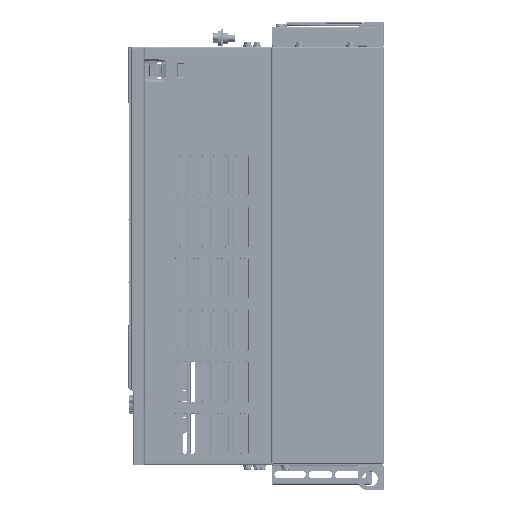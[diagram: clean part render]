
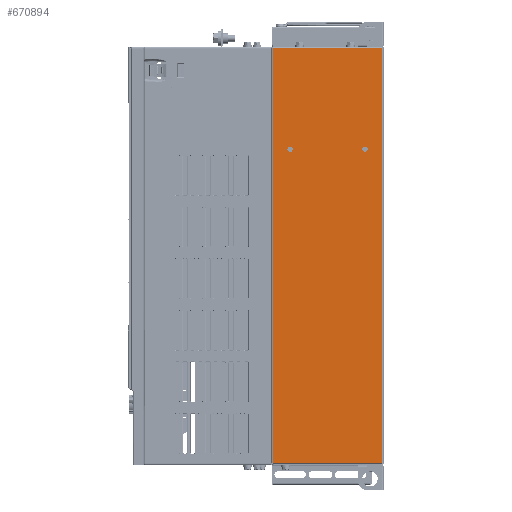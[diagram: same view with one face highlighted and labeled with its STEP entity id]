
A CAD part, left-side view. The second image highlights one B-rep face of the part: STEP entity #670894.
In plain terms, the highlighted planar face has unit normal (-1, 0, 0).
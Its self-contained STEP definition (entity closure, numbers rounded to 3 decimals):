
#662516=DIRECTION('',(0.,-1.,0.));
#662517=VECTOR('',#662516,128.6);
#662518=CARTESIAN_POINT('',(-165.,130.2,-488.8));
#662519=LINE('',#662518,#662517);
#662588=DIRECTION('',(0.,0.,1.));
#662589=VECTOR('',#662588,487.2);
#662590=CARTESIAN_POINT('',(-165.,1.6,-488.8));
#662591=LINE('',#662590,#662589);
#662595=CARTESIAN_POINT('',(-165.,21.9,-120.5));
#662596=DIRECTION('',(-1.,0.,0.));
#662597=DIRECTION('',(0.,0.,-1.));
#662598=AXIS2_PLACEMENT_3D('',#662595,#662596,#662597);
#662603=CARTESIAN_POINT('',(-165.,21.9,-120.5));
#662604=DIRECTION('',(-1.,0.,0.));
#662605=DIRECTION('',(0.,0.,1.));
#662606=AXIS2_PLACEMENT_3D('',#662603,#662604,#662605);
#662611=CARTESIAN_POINT('',(-165.,109.9,-120.5));
#662612=DIRECTION('',(-1.,0.,0.));
#662613=DIRECTION('',(0.,0.,-1.));
#662614=AXIS2_PLACEMENT_3D('',#662611,#662612,#662613);
#662619=CARTESIAN_POINT('',(-165.,109.9,-120.5));
#662620=DIRECTION('',(-1.,0.,0.));
#662621=DIRECTION('',(0.,0.,1.));
#662622=AXIS2_PLACEMENT_3D('',#662619,#662620,#662621);
#662627=DIRECTION('',(0.,0.,-1.));
#662628=VECTOR('',#662627,487.2);
#662629=CARTESIAN_POINT('',(-165.,130.2,-1.6));
#662630=LINE('',#662629,#662628);
#663756=DIRECTION('',(0.,1.,0.));
#663757=VECTOR('',#663756,128.6);
#663758=CARTESIAN_POINT('',(-165.,1.6,-1.6));
#663759=LINE('',#663758,#663757);
#667822=CARTESIAN_POINT('',(-165.,1.6,-1.6));
#667823=VERTEX_POINT('',#667822);
#667904=CARTESIAN_POINT('',(-165.,1.6,-488.8));
#667905=VERTEX_POINT('',#667904);
#667906=CARTESIAN_POINT('',(-165.,130.2,-488.8));
#667907=VERTEX_POINT('',#667906);
#667908=CARTESIAN_POINT('',(-165.,130.2,-1.6));
#667909=VERTEX_POINT('',#667908);
#667910=CARTESIAN_POINT('',(-165.,21.9,-123.65));
#667911=CARTESIAN_POINT('',(-165.,21.9,-117.35));
#667912=VERTEX_POINT('',#667910);
#667913=VERTEX_POINT('',#667911);
#667914=CARTESIAN_POINT('',(-165.,109.9,-123.65));
#667915=CARTESIAN_POINT('',(-165.,109.9,-117.35));
#667916=VERTEX_POINT('',#667914);
#667917=VERTEX_POINT('',#667915);
#670869=CARTESIAN_POINT('',(-165.,130.2,0.));
#670870=DIRECTION('',(-1.,0.,0.));
#670871=DIRECTION('',(0.,-1.,0.));
#670872=AXIS2_PLACEMENT_3D('',#670869,#670870,#670871);
#670873=PLANE('',#670872);
#670874=ORIENTED_EDGE('',*,*,#670863,.F.);
#670875=ORIENTED_EDGE('',*,*,#670788,.F.);
#670877=ORIENTED_EDGE('',*,*,#670876,.F.);
#670879=ORIENTED_EDGE('',*,*,#670878,.F.);
#670880=EDGE_LOOP('',(#670874,#670875,#670877,#670879));
#670881=FACE_OUTER_BOUND('',#670880,.F.);
#670883=ORIENTED_EDGE('',*,*,#670882,.T.);
#670885=ORIENTED_EDGE('',*,*,#670884,.T.);
#670886=EDGE_LOOP('',(#670883,#670885));
#670887=FACE_BOUND('',#670886,.F.);
#670889=ORIENTED_EDGE('',*,*,#670888,.T.);
#670891=ORIENTED_EDGE('',*,*,#670890,.T.);
#670892=EDGE_LOOP('',(#670889,#670891));
#670893=FACE_BOUND('',#670892,.F.);
#662599=CIRCLE('',#662598,3.15);
#662607=CIRCLE('',#662606,3.15);
#662615=CIRCLE('',#662614,3.15);
#662623=CIRCLE('',#662622,3.15);
#670788=EDGE_CURVE('',#667907,#667905,#662519,.T.);
#670863=EDGE_CURVE('',#667905,#667823,#662591,.T.);
#670876=EDGE_CURVE('',#667909,#667907,#662630,.T.);
#670878=EDGE_CURVE('',#667823,#667909,#663759,.T.);
#670882=EDGE_CURVE('',#667912,#667913,#662599,.T.);
#670884=EDGE_CURVE('',#667913,#667912,#662607,.T.);
#670888=EDGE_CURVE('',#667916,#667917,#662615,.T.);
#670890=EDGE_CURVE('',#667917,#667916,#662623,.T.);
#670894=ADVANCED_FACE('',(#670881,#670887,#670893),#670873,.T.);
